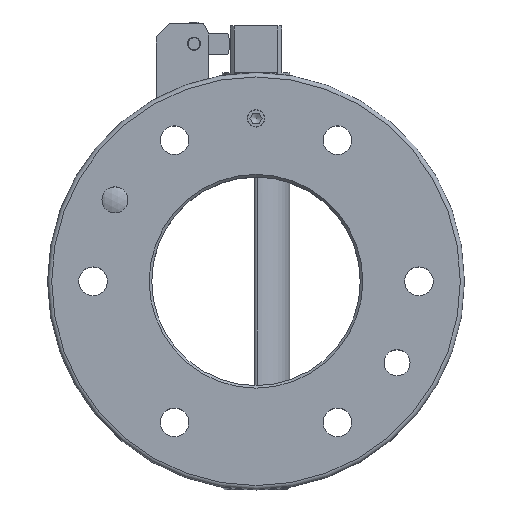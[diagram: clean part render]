
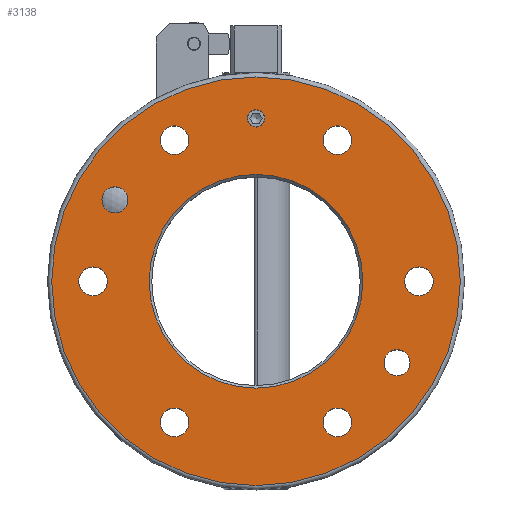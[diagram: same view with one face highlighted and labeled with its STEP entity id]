
A CAD part, top view. The second image highlights one B-rep face of the part: STEP entity #3138.
In plain terms, the highlighted planar face has unit normal (0, 0, 1).
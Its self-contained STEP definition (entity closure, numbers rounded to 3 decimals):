
#57=PLANE('',#3367);
#157=FACE_BOUND('',#485,.T.);
#158=FACE_BOUND('',#486,.T.);
#159=FACE_BOUND('',#487,.T.);
#160=FACE_BOUND('',#488,.T.);
#161=FACE_BOUND('',#489,.T.);
#162=FACE_BOUND('',#490,.T.);
#163=FACE_BOUND('',#491,.T.);
#164=FACE_BOUND('',#492,.T.);
#165=FACE_BOUND('',#493,.T.);
#166=FACE_BOUND('',#494,.T.);
#299=FACE_OUTER_BOUND('',#484,.T.);
#484=EDGE_LOOP('',(#2094));
#485=EDGE_LOOP('',(#2095));
#486=EDGE_LOOP('',(#2096));
#487=EDGE_LOOP('',(#2097));
#488=EDGE_LOOP('',(#2098));
#489=EDGE_LOOP('',(#2099));
#490=EDGE_LOOP('',(#2100));
#491=EDGE_LOOP('',(#2101));
#492=EDGE_LOOP('',(#2102,#2103));
#493=EDGE_LOOP('',(#2104,#2105));
#494=EDGE_LOOP('',(#2106,#2107));
#1119=CIRCLE('',#3366,78.4);
#1120=CIRCLE('',#3368,41.);
#1121=CIRCLE('',#3369,5.5);
#1122=CIRCLE('',#3370,5.5);
#1123=CIRCLE('',#3371,5.5);
#1124=CIRCLE('',#3372,5.5);
#1125=CIRCLE('',#3373,5.5);
#1126=CIRCLE('',#3374,5.5);
#1127=CIRCLE('',#3375,5.);
#1128=CIRCLE('',#3376,5.);
#1129=CIRCLE('',#3377,5.);
#1130=CIRCLE('',#3378,5.);
#1131=CIRCLE('',#3379,3.324);
#1132=CIRCLE('',#3380,3.324);
#1311=VERTEX_POINT('',#4807);
#1312=VERTEX_POINT('',#4811);
#1313=VERTEX_POINT('',#4813);
#1314=VERTEX_POINT('',#4815);
#1315=VERTEX_POINT('',#4817);
#1316=VERTEX_POINT('',#4819);
#1317=VERTEX_POINT('',#4821);
#1318=VERTEX_POINT('',#4823);
#1319=VERTEX_POINT('',#4825);
#1320=VERTEX_POINT('',#4826);
#1321=VERTEX_POINT('',#4829);
#1322=VERTEX_POINT('',#4830);
#1323=VERTEX_POINT('',#4833);
#1324=VERTEX_POINT('',#4834);
#1628=EDGE_CURVE('',#1311,#1311,#1119,.T.);
#1629=EDGE_CURVE('',#1312,#1312,#1120,.T.);
#1630=EDGE_CURVE('',#1313,#1313,#1121,.T.);
#1631=EDGE_CURVE('',#1314,#1314,#1122,.T.);
#1632=EDGE_CURVE('',#1315,#1315,#1123,.T.);
#1633=EDGE_CURVE('',#1316,#1316,#1124,.T.);
#1634=EDGE_CURVE('',#1317,#1317,#1125,.T.);
#1635=EDGE_CURVE('',#1318,#1318,#1126,.T.);
#1636=EDGE_CURVE('',#1319,#1320,#1127,.T.);
#1637=EDGE_CURVE('',#1320,#1319,#1128,.T.);
#1638=EDGE_CURVE('',#1321,#1322,#1129,.T.);
#1639=EDGE_CURVE('',#1322,#1321,#1130,.T.);
#1640=EDGE_CURVE('',#1323,#1324,#1131,.T.);
#1641=EDGE_CURVE('',#1324,#1323,#1132,.T.);
#2094=ORIENTED_EDGE('',*,*,#1628,.F.);
#2095=ORIENTED_EDGE('',*,*,#1629,.F.);
#2096=ORIENTED_EDGE('',*,*,#1630,.T.);
#2097=ORIENTED_EDGE('',*,*,#1631,.T.);
#2098=ORIENTED_EDGE('',*,*,#1632,.T.);
#2099=ORIENTED_EDGE('',*,*,#1633,.T.);
#2100=ORIENTED_EDGE('',*,*,#1634,.T.);
#2101=ORIENTED_EDGE('',*,*,#1635,.T.);
#2102=ORIENTED_EDGE('',*,*,#1636,.T.);
#2103=ORIENTED_EDGE('',*,*,#1637,.T.);
#2104=ORIENTED_EDGE('',*,*,#1638,.T.);
#2105=ORIENTED_EDGE('',*,*,#1639,.T.);
#2106=ORIENTED_EDGE('',*,*,#1640,.T.);
#2107=ORIENTED_EDGE('',*,*,#1641,.T.);
#3138=ADVANCED_FACE('',(#299,#157,#158,#159,#160,#161,#162,#163,#164,#165,
#166),#57,.F.);
#3366=AXIS2_PLACEMENT_3D('',#4809,#3762,#3763);
#3367=AXIS2_PLACEMENT_3D('',#4810,#3764,#3765);
#3368=AXIS2_PLACEMENT_3D('',#4812,#3766,#3767);
#3369=AXIS2_PLACEMENT_3D('',#4814,#3768,#3769);
#3370=AXIS2_PLACEMENT_3D('',#4816,#3770,#3771);
#3371=AXIS2_PLACEMENT_3D('',#4818,#3772,#3773);
#3372=AXIS2_PLACEMENT_3D('',#4820,#3774,#3775);
#3373=AXIS2_PLACEMENT_3D('',#4822,#3776,#3777);
#3374=AXIS2_PLACEMENT_3D('',#4824,#3778,#3779);
#3375=AXIS2_PLACEMENT_3D('',#4827,#3780,#3781);
#3376=AXIS2_PLACEMENT_3D('',#4828,#3782,#3783);
#3377=AXIS2_PLACEMENT_3D('',#4831,#3784,#3785);
#3378=AXIS2_PLACEMENT_3D('',#4832,#3786,#3787);
#3379=AXIS2_PLACEMENT_3D('',#4835,#3788,#3789);
#3380=AXIS2_PLACEMENT_3D('',#4836,#3790,#3791);
#3762=DIRECTION('center_axis',(0.,0.,-1.));
#3763=DIRECTION('ref_axis',(-1.,0.,0.));
#3764=DIRECTION('center_axis',(0.,0.,-1.));
#3765=DIRECTION('ref_axis',(-1.,0.,0.));
#3766=DIRECTION('center_axis',(0.,0.,1.));
#3767=DIRECTION('ref_axis',(-1.,0.,0.));
#3768=DIRECTION('center_axis',(0.,0.,-1.));
#3769=DIRECTION('ref_axis',(-0.5,-0.866,0.));
#3770=DIRECTION('center_axis',(0.,0.,-1.));
#3771=DIRECTION('ref_axis',(0.5,-0.866,0.));
#3772=DIRECTION('center_axis',(0.,0.,-1.));
#3773=DIRECTION('ref_axis',(1.,0.,0.));
#3774=DIRECTION('center_axis',(0.,0.,-1.));
#3775=DIRECTION('ref_axis',(0.5,0.866,0.));
#3776=DIRECTION('center_axis',(0.,0.,-1.));
#3777=DIRECTION('ref_axis',(-0.5,0.866,0.));
#3778=DIRECTION('center_axis',(0.,0.,-1.));
#3779=DIRECTION('ref_axis',(-1.,0.,0.));
#3780=DIRECTION('center_axis',(0.,0.,-1.));
#3781=DIRECTION('ref_axis',(1.,0.,0.));
#3782=DIRECTION('center_axis',(0.,0.,-1.));
#3783=DIRECTION('ref_axis',(1.,0.,0.));
#3784=DIRECTION('center_axis',(0.,0.,-1.));
#3785=DIRECTION('ref_axis',(1.,0.,0.));
#3786=DIRECTION('center_axis',(0.,0.,-1.));
#3787=DIRECTION('ref_axis',(1.,0.,0.));
#3788=DIRECTION('center_axis',(0.,0.,-1.));
#3789=DIRECTION('ref_axis',(1.,0.,0.));
#3790=DIRECTION('center_axis',(0.,0.,-1.));
#3791=DIRECTION('ref_axis',(1.,0.,0.));
#4807=CARTESIAN_POINT('',(78.4,0.,0.));
#4809=CARTESIAN_POINT('Origin',(0.,0.,0.));
#4810=CARTESIAN_POINT('Origin',(0.,0.,0.));
#4811=CARTESIAN_POINT('',(41.,0.,0.));
#4812=CARTESIAN_POINT('Origin',(0.,0.,0.));
#4813=CARTESIAN_POINT('',(-28.5,-49.363,0.));
#4814=CARTESIAN_POINT('Origin',(-31.25,-54.127,0.));
#4815=CARTESIAN_POINT('',(28.5,-49.363,0.));
#4816=CARTESIAN_POINT('Origin',(31.25,-54.127,0.));
#4817=CARTESIAN_POINT('',(57.,0.,0.));
#4818=CARTESIAN_POINT('Origin',(62.5,0.,0.));
#4819=CARTESIAN_POINT('',(28.5,49.363,0.));
#4820=CARTESIAN_POINT('Origin',(31.25,54.127,0.));
#4821=CARTESIAN_POINT('',(-28.5,49.363,0.));
#4822=CARTESIAN_POINT('Origin',(-31.25,54.127,0.));
#4823=CARTESIAN_POINT('',(-57.,0.,0.));
#4824=CARTESIAN_POINT('Origin',(-62.5,0.,0.));
#4825=CARTESIAN_POINT('',(-49.127,31.25,0.));
#4826=CARTESIAN_POINT('',(-59.127,31.25,0.));
#4827=CARTESIAN_POINT('Origin',(-54.127,31.25,0.));
#4828=CARTESIAN_POINT('Origin',(-54.127,31.25,0.));
#4829=CARTESIAN_POINT('',(59.127,-31.25,0.));
#4830=CARTESIAN_POINT('',(49.127,-31.25,0.));
#4831=CARTESIAN_POINT('Origin',(54.127,-31.25,0.));
#4832=CARTESIAN_POINT('Origin',(54.127,-31.25,0.));
#4833=CARTESIAN_POINT('',(3.324,62.5,0.));
#4834=CARTESIAN_POINT('',(-3.324,62.5,0.));
#4835=CARTESIAN_POINT('Origin',(0.,62.5,0.));
#4836=CARTESIAN_POINT('Origin',(0.,62.5,0.));
